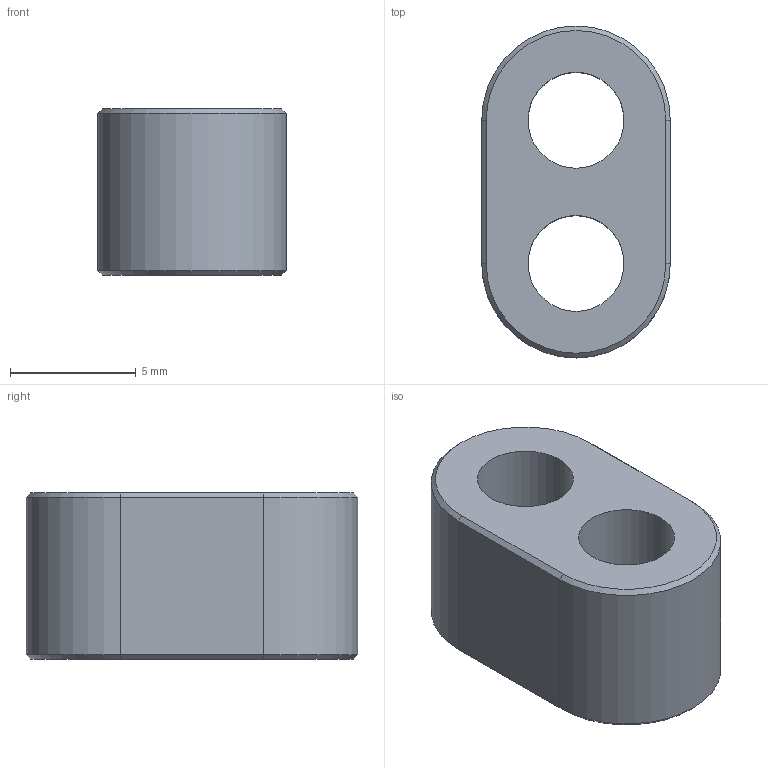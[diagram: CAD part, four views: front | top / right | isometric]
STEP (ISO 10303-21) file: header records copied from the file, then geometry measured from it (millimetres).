
FILE_DESCRIPTION (( 'STEP AP214' ), '1' );
FILE_NAME ('2868001502.STEP', '2025-09-26T13:31:18', ( '' ), ( '' ), 'SwSTEP 2.0', 'SolidWorks 2025', '' );
FILE_SCHEMA (( 'AUTOMOTIVE_DESIGN' ));
Length unit declared in the file: inch
Products named in the file (1): 2868001502
Bounding box: 7.49 x 13.18 x 6.6 mm (x, y, z)
Volume: 421.1 mm3; surface area: 509.2 mm2
Topology: 1 solids, 1 shells, 18 faces, 40 edges, 24 vertices
Faces by surface type: plane 8, cylinder 6, cone 4
Entity records: 531 total; most frequent: DIRECTION 94, CARTESIAN_POINT 83, ORIENTED_EDGE 80, EDGE_CURVE 40, AXIS2_PLACEMENT_3D 35, LINE 24, VERTEX_POINT 24, VECTOR 24
